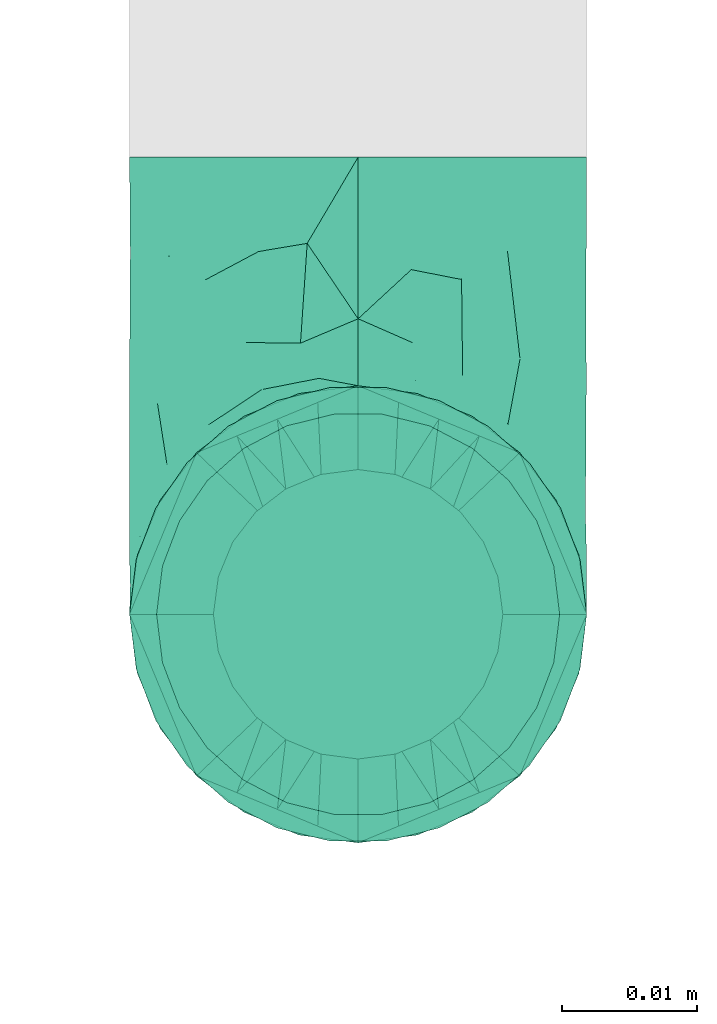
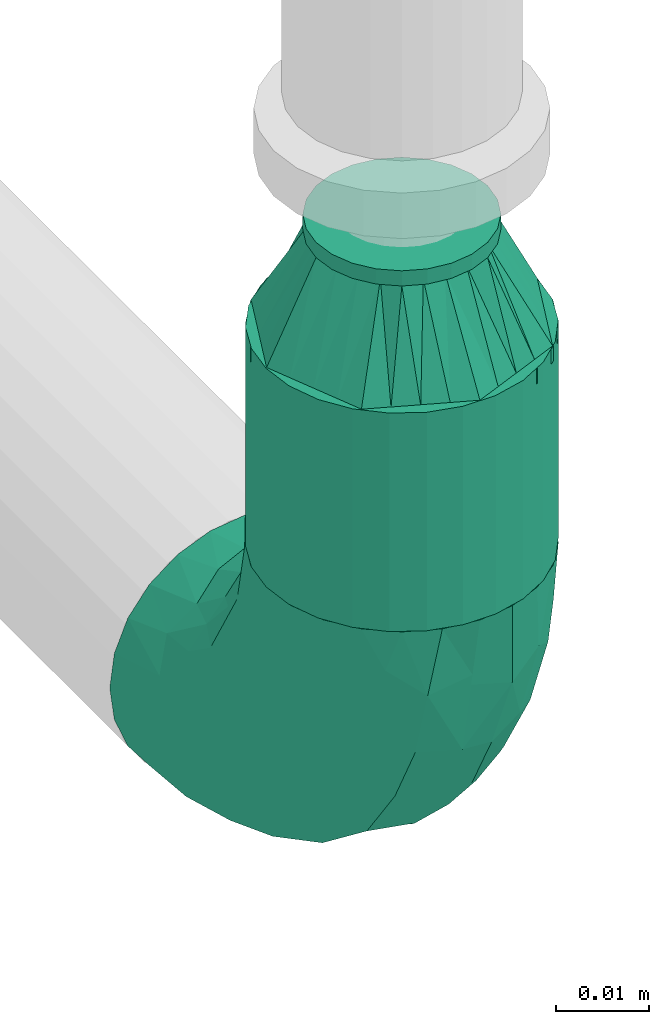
# One storey, part 10 of 31: 2 flow fittings, 1 flow segment.
"""IFC2X3 building model written with IfcOpenShell, lengths in millimetres."""

from ifc_helpers import new_model, entity, si_unit, converted_unit, derived_unit, direction, frame, origin_with_axes, origin_2d_with_axis, place, context, subcontext, project, spatial, hollow_circle, extrude, open_shell, surface_model, source, transform, mapped, type_object, element, save


model = new_model("IFC2X3")

# Units and contexts
model_context = context("Model", 3, precision=0.01, world=frame((0.0, 4.29681676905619e-09, 0.0)), true_north=direction((4.01073788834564e-13, 1.0)))
plan_context = context("Plan", 3, precision=0.01, world=frame((0.0, 4.29681676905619e-09, 0.0)), true_north=direction((4.01073788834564e-13, 1.0)))
body_context = subcontext(model_context, "Body", "Model", "MODEL_VIEW")
ifc_project = project(units=[converted_unit("PLANEANGLEUNIT", "DEGREE", entity("IfcPositiveLengthMeasure", 0.0174532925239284), si_unit("PLANEANGLEUNIT", "RADIAN"), dimensions=[0, 0, 0, 0, 0, 0, 0]), si_unit("AREAUNIT", "SQUARE_METRE"), si_unit("LENGTHUNIT", "METRE", prefix="MILLI"), si_unit("MASSUNIT", "GRAM", prefix="KILO"), si_unit("POWERUNIT", "WATT"), si_unit("PRESSUREUNIT", "PASCAL", prefix="KILO"), si_unit("FORCEUNIT", "NEWTON", prefix="KILO"), si_unit("ELECTRICVOLTAGEUNIT", "VOLT"), si_unit("ELECTRICCURRENTUNIT", "AMPERE"), si_unit("THERMODYNAMICTEMPERATUREUNIT", "DEGREE_CELSIUS"), si_unit("TIMEUNIT", "SECOND"), si_unit("VOLUMEUNIT", "CUBIC_METRE"), derived_unit("LINEARVELOCITYUNIT", [(si_unit("LENGTHUNIT", "METRE"), 1), (si_unit("TIMEUNIT", "SECOND"), -1)]), derived_unit("VOLUMETRICFLOWRATEUNIT", [(si_unit("VOLUMEUNIT", "CUBIC_METRE"), 1), (si_unit("TIMEUNIT", "SECOND"), -1)]), derived_unit("THERMALTRANSMITTANCEUNIT", [(si_unit("POWERUNIT", "WATT"), 1), (si_unit("THERMODYNAMICTEMPERATUREUNIT", "KELVIN"), -1), (si_unit("AREAUNIT", "SQUARE_METRE"), -1)]), derived_unit("SOUNDPRESSUREUNIT", [(si_unit("PRESSUREUNIT", "PASCAL"), 1)])], contexts=[model_context, plan_context])

# Site, building, storey
site_placement = place(None, frame((0.0, -4.29681676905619e-09, 0.0), z_axis=(0.0, 0.0, 1.0), x_axis=(1.0, 0.0, 0.0)))
site = spatial("IfcSite", under=ifc_project, at=site_placement, CompositionType="ELEMENT")
building_placement = place(site_placement, frame((0.0, 4.29681676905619e-09, 0.0), z_axis=(0.0, 0.0, 1.0), x_axis=(1.0, 0.0, 0.0)))
building = spatial("IfcBuilding", under=site, at=building_placement, Name="mc-building", CompositionType="ELEMENT")
storey_placement = place(building_placement, frame((0.0, 0.0, 200300.0), z_axis=(0.0, 0.0, 1.0), x_axis=(1.0, 0.0, 0.0)))
storey = spatial("IfcBuildingStorey", under=building, at=storey_placement, Name="Nivå C", CompositionType="ELEMENT", Elevation=200300.0)

# Flow fittings
pipe_fitting_type_1 = type_object("IfcPipeFittingType", Name="magi_pipe_fe_reducer_centric_short_NOR", PredefinedType="TRANSITION")
shared_shape_1 = source(origin_with_axes(), body_context, "Body", "SurfaceModel", [
    surface_model("IfcShellBasedSurfaceModel", [(14.4, 5.35, -9.26647), (14.4, 0.0, -10.7), (14.4, 2.76936, -10.33541), (14.4, 10.33541, -2.76936), (14.4, 7.56604, -7.56604), (14.4, -10.33541, -2.76936), (14.4, 9.26647, -5.35), (14.4, 0.0, 10.7), (14.4, -5.35, -9.26647), (14.4, -2.76936, -10.33541), (14.4, -7.56604, -7.56604), (14.4, -9.26647, -5.35), (14.4, 10.7, 0.0), (14.4, 10.33541, 2.76936), (14.4, 9.26647, 5.35), (14.4, 7.56604, 7.56604), (14.4, 2.76936, 10.33541), (14.4, 5.35, 9.26647), (14.4, -10.33541, 2.76936), (14.4, -7.56604, 7.56604), (14.4, -9.26647, 5.35), (14.4, -10.7, 0.0), (14.4, -2.76936, 10.33541), (14.4, -5.35, 9.26647), (12.4, 2.76936, 10.33541), (12.4, -10.33541, -2.76936), (12.4, 0.0, 10.7), (12.4, 5.35, 9.26647), (12.4, 7.56604, 7.56604), (12.4, 9.26647, 5.35), (12.4, 10.33541, 2.76936), (12.4, -10.33541, 2.76936), (12.4, -2.76936, 10.33541), (12.4, -7.56604, 7.56604), (12.4, -5.35, 9.26647), (12.4, -9.26647, 5.35), (12.4, -10.7, 0.0), (12.4, 10.33541, -2.76936), (12.4, 5.35, -9.26647), (12.4, 9.26647, -5.35), (12.4, 7.56604, -7.56604), (12.4, 2.76936, -10.33541), (12.4, -9.26647, -5.35), (12.4, -5.35, -9.26647), (12.4, -7.56604, -7.56604), (12.4, 0.0, -10.7), (12.4, -2.76936, -10.33541), (12.4, 10.7, 0.0), (-2.0, 11.9501, 11.9501), (-2.0, 0.0, 16.9), (-2.0, 4.37404, 16.32415), (-2.0, 8.45, 14.63583), (-2.0, 14.63583, 8.45), (-2.0, 16.32415, 4.37404), (-2.0, -16.32415, 4.37404), (-2.0, -8.45, 14.63583), (-2.0, -14.63583, 8.45), (-2.0, -11.9501, 11.9501), (-2.0, -4.37404, 16.32415), (-2.0, -16.32415, -4.37404), (-2.0, -16.9, 0.0), (-2.0, -8.45, -14.63583), (-2.0, 16.32415, -4.37404), (-2.0, 11.9501, -11.9501), (-2.0, 14.63583, -8.45), (-2.0, 8.45, -14.63583), (-2.0, 4.37404, -16.32415), (-2.0, 0.0, -16.9), (-2.0, -11.9501, -11.9501), (-2.0, -14.63583, -8.45), (-2.0, -4.37404, -16.32415), (-2.0, 16.9, 0.0), (0.0, 4.37404, -16.32415), (0.0, 8.45, -14.63583), (0.0, 11.9501, -11.9501), (0.0, 0.0, -16.9), (0.0, 16.32415, -4.37404), (0.0, 16.32415, 4.37404), (0.0, 14.63583, -8.45), (0.0, -8.45, -14.63583), (0.0, -4.37404, -16.32415), (0.0, -11.9501, -11.9501), (0.0, -16.32415, -4.37404), (0.0, -14.63583, -8.45), (0.0, -16.32415, 4.37404), (0.0, 16.9, 0.0), (0.0, 14.63583, 8.45), (0.0, 11.9501, 11.9501), (0.0, 4.37404, 16.32415), (0.0, 8.45, 14.63583), (0.0, 0.0, 16.9), (0.0, -14.63583, 8.45), (0.0, -16.9, 0.0), (0.0, -8.45, 14.63583), (0.0, -11.9501, 11.9501), (0.0, -4.37404, 16.32415), (12.4, 9.3625, -2.31662), (0.0, 14.42505, -5.97505), (0.0, 15.66253, -2.98753), (12.4, -6.6875, -6.94985), (0.0, -13.18758, -8.96258), (0.0, 2.98753, -15.66253), (12.4, 0.0, -9.26647), (12.4, 6.6875, -6.94985), (0.0, 8.96258, -13.18758), (12.4, -9.3625, -2.31662), (0.0, -15.66253, -2.98753), (0.0, -14.42505, -5.97505), (0.0, 5.97505, -14.42505), (0.0, -2.98753, -15.66253), (0.0, -8.96258, -13.18758), (0.0, 13.18758, -8.96258), (12.4, 8.025, -4.63324), (12.4, -2.675, -9.26647), (12.4, 2.675, -9.26647), (0.0, -5.97505, -14.42505), (12.4, -8.025, -4.63324), (12.4, -9.3625, 2.31662), (0.0, -14.42505, 5.97505), (0.0, -15.66253, 2.98753), (12.4, 6.6875, 6.94985), (0.0, 13.18758, 8.96258), (0.0, -2.98753, 15.66253), (12.4, 0.0, 9.26647), (12.4, -6.6875, 6.94985), (0.0, -8.96258, 13.18758), (12.4, 9.3625, 2.31662), (0.0, 15.66253, 2.98753), (0.0, 14.42505, 5.97505), (0.0, -5.97505, 14.42505), (0.0, 2.98753, 15.66253), (0.0, 8.96258, 13.18758), (0.0, -13.18758, 8.96258), (12.4, -8.025, 4.63324), (12.4, 2.675, 9.26647), (12.4, -2.675, 9.26647), (0.0, 5.97505, 14.42505), (12.4, 8.025, 4.63324)], [open_shell([[[0, 1, 2]], [[3, 0, 4]], [[5, 0, 3]], [[3, 4, 6]], [[7, 5, 3]], [[1, 8, 9]], [[1, 0, 8]], [[10, 5, 11]], [[5, 10, 8]], [[0, 5, 8]], [[3, 12, 13]], [[13, 14, 15]], [[13, 15, 16]], [[7, 3, 16]], [[16, 15, 17]], [[7, 18, 5]], [[18, 19, 20]], [[21, 5, 18]], [[19, 22, 23]], [[22, 19, 18]], [[7, 22, 18]], [[13, 16, 3]], [[24, 25, 26]], [[27, 25, 24]], [[28, 29, 30]], [[28, 25, 27]], [[31, 26, 25]], [[32, 33, 34]], [[33, 32, 31]], [[33, 31, 35]], [[32, 26, 31]], [[31, 25, 36]], [[30, 37, 28]], [[25, 28, 37]], [[38, 37, 39]], [[37, 38, 25]], [[38, 39, 40]], [[41, 25, 38]], [[42, 43, 44]], [[43, 42, 25]], [[43, 45, 46]], [[43, 25, 41]], [[41, 45, 43]], [[37, 30, 47]], [[25, 5, 36]], [[42, 11, 25]], [[8, 44, 43]], [[42, 44, 10]], [[9, 43, 46]], [[25, 11, 5]], [[5, 21, 36]], [[9, 8, 43]], [[10, 44, 8]], [[10, 11, 42]], [[1, 9, 46]], [[46, 45, 1]], [[41, 2, 45]], [[38, 0, 41]], [[6, 40, 39]], [[38, 40, 4]], [[3, 39, 37]], [[38, 4, 0]], [[0, 2, 41]], [[12, 3, 37]], [[6, 39, 3]], [[6, 4, 40]], [[47, 12, 37]], [[45, 2, 1]], [[30, 13, 47]], [[29, 14, 30]], [[17, 28, 27]], [[29, 28, 15]], [[16, 27, 24]], [[30, 14, 13]], [[13, 12, 47]], [[16, 17, 27]], [[15, 28, 17]], [[15, 14, 29]], [[7, 16, 24]], [[24, 26, 7]], [[32, 22, 26]], [[34, 23, 32]], [[20, 33, 35]], [[34, 33, 19]], [[18, 35, 31]], [[34, 19, 23]], [[23, 22, 32]], [[21, 18, 31]], [[20, 35, 18]], [[20, 19, 33]], [[36, 21, 31]], [[26, 22, 7]], [[48, 49, 50]], [[48, 50, 51]], [[48, 52, 53]], [[48, 53, 49]], [[49, 53, 54]], [[55, 56, 57]], [[55, 58, 49]], [[56, 55, 49]], [[49, 54, 56]], [[54, 59, 60]], [[54, 53, 61]], [[53, 62, 63]], [[63, 62, 64]], [[63, 65, 66]], [[61, 53, 63]], [[67, 63, 66]], [[59, 68, 69]], [[68, 59, 61]], [[61, 67, 70]], [[59, 54, 61]], [[63, 67, 61]], [[53, 71, 62]], [[72, 73, 74]], [[75, 72, 74]], [[74, 76, 77]], [[76, 74, 78]], [[74, 77, 79]], [[75, 79, 80]], [[75, 74, 79]], [[81, 82, 83]], [[82, 81, 79]], [[79, 84, 82]], [[77, 76, 85]], [[77, 86, 87]], [[77, 87, 88]], [[88, 84, 79]], [[88, 87, 89]], [[84, 88, 90]], [[90, 91, 84]], [[92, 82, 84]], [[91, 93, 94]], [[91, 90, 93]], [[93, 90, 95]], [[79, 77, 88]], [[59, 82, 60]], [[69, 83, 59]], [[79, 68, 61]], [[69, 68, 81]], [[80, 61, 70]], [[59, 83, 82]], [[82, 92, 60]], [[80, 79, 61]], [[81, 68, 79]], [[81, 83, 69]], [[75, 80, 70]], [[70, 67, 75]], [[66, 72, 67]], [[65, 73, 66]], [[78, 63, 64]], [[65, 63, 74]], [[76, 64, 62]], [[65, 74, 73]], [[73, 72, 66]], [[85, 76, 62]], [[78, 64, 76]], [[78, 74, 63]], [[71, 85, 62]], [[67, 72, 75]], [[53, 77, 71]], [[52, 86, 53]], [[89, 48, 51]], [[52, 48, 87]], [[88, 51, 50]], [[53, 86, 77]], [[77, 85, 71]], [[88, 89, 51]], [[87, 48, 89]], [[87, 86, 52]], [[90, 88, 50]], [[50, 49, 90]], [[58, 95, 49]], [[55, 93, 58]], [[91, 57, 56]], [[55, 57, 94]], [[84, 56, 54]], [[55, 94, 93]], [[93, 95, 58]], [[92, 84, 54]], [[91, 56, 84]], [[91, 94, 57]], [[60, 92, 54]], [[49, 95, 90]], [[27, 34, 47]], [[47, 34, 43]], [[43, 38, 47]], [[43, 34, 36]], [[90, 87, 94]], [[92, 94, 87]], [[87, 74, 92]], [[75, 92, 74]], [[81, 92, 75]], [[74, 87, 85]], [[96, 97, 98]], [[81, 99, 100]], [[101, 102, 75]], [[98, 85, 47]], [[74, 103, 104]], [[104, 103, 38]], [[105, 106, 107]], [[38, 108, 104]], [[102, 109, 75]], [[110, 99, 81]], [[47, 96, 98]], [[103, 111, 112]], [[109, 102, 113]], [[36, 92, 106]], [[102, 101, 114]], [[110, 115, 43]], [[96, 112, 97]], [[107, 116, 105]], [[36, 106, 105]], [[113, 115, 109]], [[43, 115, 113]], [[116, 107, 100]], [[108, 38, 114]], [[111, 103, 74]], [[111, 97, 112]], [[99, 110, 43]], [[116, 100, 99]], [[101, 108, 114]], [[117, 118, 119]], [[87, 120, 121]], [[122, 123, 90]], [[119, 92, 36]], [[94, 124, 125]], [[125, 124, 34]], [[126, 127, 128]], [[34, 129, 125]], [[123, 130, 90]], [[131, 120, 87]], [[36, 117, 119]], [[124, 132, 133]], [[130, 123, 134]], [[47, 85, 127]], [[123, 122, 135]], [[131, 136, 27]], [[117, 133, 118]], [[128, 137, 126]], [[47, 127, 126]], [[134, 136, 130]], [[27, 136, 134]], [[137, 128, 121]], [[129, 34, 135]], [[132, 124, 94]], [[132, 118, 133]], [[120, 131, 27]], [[137, 121, 120]], [[122, 129, 135]]])]),
])
flow_fitting_1_placement = place(storey_placement, frame((608500.0, 397923.19532, 2962.64799999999), z_axis=(0.0, 1.0, 0.0), x_axis=(0.0, 0.0, 1.0)))
element("IfcFlowFitting", 1, at=flow_fitting_1_placement, inside=storey, type_object=pipe_fitting_type_1, Name="magi_pipe_fe_reducer_centric_short_NOR", context=body_context, shape_type="MappedRepresentation", body=[
    mapped(shared_shape_1, transform((0.0, 0.0, 0.0), scale=1.0)),
])
pipe_fitting_type_2 = type_object("IfcPipeFittingType", Name="magi_pipe_fe_elbow_short_001", PredefinedType="BEND")
shared_shape_2 = source(origin_with_axes(), body_context, "Body", "SurfaceModel", [
    surface_model("IfcShellBasedSurfaceModel", [(-33.8, 8.45, -14.63583), (-33.8, 4.37404, -16.32415), (-33.8, 11.9501, -11.9501), (-33.8, -11.9501, -11.9501), (-33.8, -14.63583, -8.45), (-33.8, -8.45, -14.63583), (-33.8, 0.0, -16.9), (-33.8, -4.37404, -16.32415), (-33.8, -4.37404, 16.32415), (-33.8, 0.0, 16.9), (-33.8, -8.45, 14.63583), (-33.8, 16.32415, -4.37404), (-33.8, 14.63583, -8.45), (-33.8, -16.32415, -4.37404), (-33.8, -16.9, 0.0), (-33.8, -16.32415, 4.37404), (-33.8, 11.9501, 11.9501), (-33.8, 14.63583, 8.45), (-33.8, 16.32415, 4.37404), (-33.8, 4.37404, 16.32415), (-33.8, 8.45, 14.63583), (-33.8, -14.63583, 8.45), (-33.8, -11.9501, 11.9501), (-33.8, 16.9, 0.0), (-11.9501, 33.8, -11.9501), (0.0, 33.8, -16.9), (-4.37404, 33.8, -16.32415), (-8.45, 33.8, -14.63583), (-14.63583, 33.8, -8.45), (-16.32415, 33.8, -4.37404), (14.63583, 33.8, -8.45), (8.45, 33.8, 14.63583), (16.32415, 33.8, -4.37404), (8.45, 33.8, -14.63583), (11.9501, 33.8, -11.9501), (4.37404, 33.8, -16.32415), (16.32415, 33.8, 4.37404), (16.9, 33.8, 0.0), (-11.9501, 33.8, 11.9501), (-16.32415, 33.8, 4.37404), (-14.63583, 33.8, 8.45), (-8.45, 33.8, 14.63583), (-4.37404, 33.8, 16.32415), (11.9501, 33.8, 11.9501), (14.63583, 33.8, 8.45), (0.0, 33.8, 16.9), (4.37404, 33.8, 16.32415), (-16.9, 33.8, 0.0), (-24.79389, -13.12945, 9.48721), (-22.19287, -9.75018, 12.59315), (-24.09897, -14.97035, 0.0), (-14.93934, -10.76256, 8.5297), (-22.46095, -14.75051, 5.27077), (14.75051, 22.46094, 5.27077), (11.9251, 13.23888, 4.33236), (13.04069, 14.39795, 0.0), (7.71387, 13.68847, 11.55891), (9.75018, 22.19287, 12.59315), (4.10169, 13.0571, 14.04018), (-24.84007, -6.39063, 15.2048), (-25.81779, -2.23879, 16.61097), (-23.66549, 2.59054, 16.87119), (-26.50418, 14.06512, 11.08152), (-24.21253, 17.66365, 7.72657), (-29.58514, 15.86957, 7.00283), (-6.17382, -7.5455, 0.0), (-13.23888, -11.9251, 4.33236), (-14.39795, -13.04069, 0.0), (-17.81434, 18.87373, 11.97104), (-6.30846, 29.15138, 15.82987), (-2.31622, 25.28002, 16.85849), (-29.23923, 10.23435, 13.77053), (-1.45439, -2.85688, 7.61475), (-0.28326, 0.34872, 10.09509), (-5.74484, -4.04709, 10.4122), (-4.41137, 11.31918, 16.59407), (-8.39727, 3.10034, 15.7812), (-1.72649, 9.1306, 15.53089), (-17.39909, 24.75344, 7.64977), (-26.19233, 20.0512, 0.0), (-28.14518, 17.29657, 4.25857), (-26.05147, 6.6281, 15.96447), (-5.87354, 16.61944, 16.86968), (-12.51807, 12.51807, 16.48937), (-10.06312, 7.38516, 16.81295), (-3.01882, 3.01882, 13.81718), (-13.0571, -4.10169, 14.04018), (-16.82553, -0.15166, 16.38038), (10.76256, 14.93934, 8.5297), (13.12945, 24.79389, 9.48721), (6.39063, 24.84007, 15.2048), (2.23879, 25.81779, 16.61097), (-13.68847, -7.71387, 11.55891), (14.97035, 24.09897, 0.0), (-7.30894, 22.89991, 16.09489), (-10.67958, 26.17414, 14.008), (-12.78295, 18.26924, 15.06066), (-13.88562, 22.45231, 12.93244), (-18.04944, 15.16501, 14.04434), (-23.11658, 20.08178, 4.02986), (-21.84989, 21.84989, 0.0), (-18.55817, 25.48277, 3.93065), (-13.95142, 26.94732, 11.03289), (-18.57098, 7.23906, 16.59756), (-16.58335, 4.14122, 16.89279), (-17.96666, 11.46709, 15.63151), (-9.84453, 17.54304, 16.18938), (0.15166, 16.82553, 16.38038), (-23.27207, 11.47201, 14.23154), (3.84842, 5.86994, 10.70473), (-8.0212, -7.54413, 7.93275), (1.00345, -2.19508, 4.57414), (5.13203, 3.01004, 5.90201), (5.24161, 1.7543, 2.53265), (8.70457, 7.04947, 3.99182), (-20.0512, 26.19233, 0.0), (8.4852, 8.76699, 7.09296), (-4.55488, -6.72064, 4.90681), (2.05031, -2.05031, 0.0), (7.5455, 6.17382, 0.0), (-26.75399, 2.1369, -16.845), (-14.61995, 24.73803, -11.27736), (-28.45274, -13.45335, -9.81895), (-26.00469, 6.63555, -15.96645), (-23.06726, 20.04573, -4.26202), (-13.80647, -4.26506, -14.17873), (-14.67501, -0.21081, -16.07388), (-6.7902, -0.2828, -13.8478), (-24.53586, 11.08096, -14.13417), (-26.72048, 14.00837, -11.05776), (10.0967, 24.44989, -12.75976), (5.83237, 21.40218, -15.03047), (6.66249, 28.54238, -15.38093), (-20.38182, 15.48705, -12.74596), (12.53268, 21.23441, -9.15363), (12.54494, 15.67504, -5.54878), (9.7522, 12.89279, -8.66343), (-15.65186, 19.64213, -13.01327), (-12.03528, 20.66498, -14.67665), (-15.61907, 15.61906, -14.83879), (-25.56551, -15.26206, 0.0), (-24.65452, -15.12934, -5.50955), (13.45335, 28.45274, -9.81895), (15.12934, 24.65452, -5.50955), (-7.35442, -8.31014, -5.65563), (-15.67504, -12.54494, -5.54878), (-24.44989, -10.0967, -12.75976), (0.16522, 0.41303, -9.71728), (-5.70658, -5.33066, -8.89288), (-5.13869, -2.37198, -11.53565), (-21.23441, -12.53268, -9.15363), (0.71146, 7.93863, -14.09382), (0.21081, 14.67501, -16.07388), (3.49291, 14.42772, -14.76381), (-24.89911, -2.13088, -16.591), (-28.54238, -6.66249, -15.38093), (-18.44386, -7.71663, -13.26957), (2.13088, 24.89911, -16.591), (-28.64342, 17.44413, -2.89318), (1.70017, -1.28722, -5.09504), (-16.57067, 26.81947, -7.36596), (-17.69055, 27.4263, -3.76405), (-12.89279, -9.7522, -8.66343), (-5.96611, 5.96611, -15.95814), (-20.53709, 20.09345, -8.28985), (-2.1369, 26.75399, -16.845), (-6.89872, 24.58781, -16.02578), (-10.60739, 26.53157, -13.98044), (-21.40218, -5.83237, -15.03047), (2.93192, 5.89627, -11.55917), (6.89393, 12.61842, -11.82233), (5.58056, 5.95325, -8.79455), (-3.99512, 18.61798, -16.89635), (8.31014, 7.35442, -5.65563), (-9.1383, 9.86148, -16.89041), (-9.99983, 16.02119, -16.39699), (-16.68576, 9.78031, -16.34199), (-27.01915, 16.61158, -7.12979), (15.26206, 25.56551, 0.0), (-18.61798, 3.99512, -16.89635), (-19.37495, 27.82495, 0.0), (-12.61842, -6.89393, -11.82233), (-18.84705, 19.14018, -10.96545)], [open_shell([[[0, 1, 2]], [[3, 4, 5]], [[6, 7, 5]], [[8, 9, 10]], [[1, 6, 2]], [[11, 12, 2]], [[4, 2, 6]], [[2, 13, 10]], [[5, 4, 6]], [[2, 4, 13]], [[14, 15, 13]], [[11, 2, 16]], [[11, 17, 18]], [[11, 16, 17]], [[19, 20, 16]], [[16, 2, 10]], [[19, 16, 10]], [[21, 22, 15]], [[22, 13, 15]], [[22, 10, 13]], [[10, 9, 19]], [[11, 18, 23]], [[24, 25, 26]], [[24, 26, 27]], [[24, 28, 29]], [[25, 24, 30]], [[31, 32, 24]], [[33, 30, 34]], [[33, 35, 25]], [[25, 30, 33]], [[32, 30, 24]], [[32, 36, 37]], [[38, 24, 29]], [[39, 40, 29]], [[40, 38, 29]], [[38, 41, 42]], [[38, 31, 24]], [[31, 38, 42]], [[36, 43, 44]], [[36, 32, 43]], [[31, 45, 46]], [[32, 31, 43]], [[42, 45, 31]], [[39, 29, 47]], [[22, 48, 49]], [[15, 14, 50]], [[51, 48, 52]], [[53, 54, 55]], [[48, 22, 21]], [[15, 52, 21]], [[56, 57, 58]], [[49, 10, 22]], [[49, 59, 10]], [[9, 60, 61]], [[62, 63, 64]], [[65, 66, 67]], [[57, 43, 31]], [[62, 68, 63]], [[42, 69, 70]], [[20, 71, 16]], [[8, 60, 9]], [[72, 73, 74]], [[75, 76, 77]], [[16, 62, 17]], [[40, 39, 78]], [[79, 23, 80]], [[64, 18, 17]], [[9, 61, 19]], [[19, 81, 20]], [[82, 83, 84]], [[74, 85, 86]], [[59, 86, 87]], [[88, 89, 57]], [[90, 31, 46]], [[44, 53, 36]], [[46, 45, 91]], [[54, 53, 88]], [[44, 89, 53]], [[92, 86, 49]], [[89, 44, 43]], [[10, 59, 8]], [[53, 55, 93]], [[93, 36, 53]], [[66, 52, 67]], [[94, 82, 70]], [[95, 96, 94]], [[97, 98, 96]], [[79, 99, 100]], [[41, 38, 95]], [[101, 100, 99]], [[68, 78, 63]], [[42, 41, 69]], [[23, 18, 80]], [[95, 94, 69]], [[78, 101, 99]], [[38, 102, 95]], [[70, 45, 42]], [[97, 95, 102]], [[15, 50, 52]], [[90, 57, 31]], [[57, 90, 58]], [[81, 19, 61]], [[103, 104, 84]], [[105, 81, 103]], [[38, 40, 102]], [[106, 96, 83]], [[94, 106, 82]], [[91, 70, 107]], [[71, 62, 16]], [[62, 108, 98]], [[86, 59, 49]], [[67, 52, 50]], [[60, 59, 87]], [[92, 49, 51]], [[86, 85, 76]], [[91, 90, 46]], [[37, 36, 93]], [[107, 77, 58]], [[107, 58, 90]], [[58, 85, 109]], [[110, 74, 92]], [[72, 74, 110]], [[66, 51, 52]], [[72, 111, 112]], [[113, 114, 112]], [[56, 88, 57]], [[52, 48, 21]], [[49, 48, 51]], [[57, 89, 43]], [[53, 89, 88]], [[103, 81, 61]], [[71, 81, 108]], [[18, 64, 80]], [[63, 78, 99]], [[47, 115, 101]], [[101, 115, 100]], [[40, 78, 102]], [[68, 102, 78]], [[97, 96, 95]], [[105, 98, 108]], [[103, 84, 83]], [[107, 70, 82]], [[76, 84, 87]], [[82, 84, 75]], [[70, 91, 45]], [[90, 91, 107]], [[59, 60, 8]], [[61, 60, 87]], [[73, 85, 74]], [[109, 112, 116]], [[103, 61, 104]], [[105, 103, 83]], [[96, 105, 83]], [[81, 105, 108]], [[96, 98, 105]], [[62, 98, 68]], [[61, 87, 104]], [[87, 84, 104]], [[86, 76, 87]], [[77, 76, 85]], [[58, 77, 85]], [[75, 77, 107]], [[82, 75, 107]], [[76, 75, 84]], [[81, 71, 20]], [[62, 71, 108]], [[95, 69, 41]], [[70, 69, 94]], [[62, 64, 17]], [[80, 63, 99]], [[63, 80, 64]], [[80, 99, 79]], [[66, 65, 117]], [[110, 66, 117]], [[112, 114, 116]], [[118, 117, 65]], [[110, 92, 51]], [[112, 111, 113]], [[119, 55, 54]], [[74, 86, 92]], [[58, 109, 56]], [[116, 56, 109]], [[66, 110, 51]], [[72, 110, 117]], [[111, 72, 117]], [[73, 112, 109]], [[117, 118, 111]], [[113, 111, 118]], [[118, 119, 113]], [[114, 119, 54]], [[119, 114, 113]], [[116, 54, 88]], [[54, 116, 114]], [[116, 88, 56]], [[112, 73, 72]], [[85, 73, 109]], [[78, 39, 101]], [[47, 101, 39]], [[102, 68, 97]], [[97, 68, 98]], [[82, 106, 83]], [[94, 96, 106]], [[1, 120, 6]], [[28, 24, 121]], [[3, 122, 4]], [[0, 123, 1]], [[100, 124, 79]], [[125, 126, 127]], [[128, 2, 129]], [[130, 131, 132]], [[128, 129, 133]], [[134, 135, 136]], [[137, 138, 139]], [[128, 0, 2]], [[67, 140, 141]], [[134, 142, 143]], [[141, 13, 4]], [[144, 65, 145]], [[146, 3, 5]], [[147, 148, 149]], [[145, 141, 150]], [[151, 152, 153]], [[154, 7, 6]], [[5, 155, 146]], [[150, 146, 156]], [[155, 5, 7]], [[143, 135, 134]], [[35, 157, 25]], [[23, 79, 158]], [[148, 159, 144]], [[160, 161, 29]], [[145, 162, 144]], [[163, 152, 151]], [[29, 28, 160]], [[121, 164, 160]], [[33, 34, 130]], [[25, 165, 26]], [[26, 165, 166]], [[142, 34, 30]], [[24, 27, 167]], [[124, 161, 164]], [[157, 35, 132]], [[155, 154, 168]], [[123, 0, 128]], [[169, 170, 171]], [[172, 157, 152]], [[26, 166, 27]], [[132, 35, 33]], [[142, 130, 34]], [[168, 154, 126]], [[136, 135, 173]], [[133, 137, 139]], [[2, 12, 129]], [[170, 131, 130]], [[30, 32, 143]], [[172, 174, 175]], [[176, 123, 128]], [[158, 177, 11]], [[135, 55, 119]], [[167, 27, 166]], [[175, 166, 172]], [[137, 167, 138]], [[122, 141, 4]], [[140, 14, 13]], [[32, 37, 178]], [[170, 130, 134]], [[152, 157, 131]], [[165, 157, 172]], [[153, 170, 151]], [[152, 163, 174]], [[168, 125, 156]], [[122, 146, 150]], [[120, 154, 6]], [[179, 174, 126]], [[179, 126, 154]], [[126, 163, 127]], [[162, 145, 150]], [[140, 13, 141]], [[32, 178, 143]], [[55, 143, 178]], [[177, 129, 12]], [[128, 133, 139]], [[176, 128, 139]], [[120, 123, 179]], [[121, 160, 28]], [[161, 100, 180]], [[166, 175, 138]], [[121, 24, 167]], [[161, 47, 29]], [[79, 124, 158]], [[124, 164, 177]], [[161, 124, 100]], [[136, 171, 170]], [[127, 163, 151]], [[147, 171, 159]], [[148, 144, 162]], [[127, 151, 169]], [[127, 181, 125]], [[129, 177, 164]], [[12, 11, 177]], [[159, 65, 144]], [[67, 141, 145]], [[143, 55, 135]], [[135, 119, 173]], [[123, 120, 1]], [[154, 120, 179]], [[157, 165, 25]], [[166, 165, 172]], [[172, 152, 174]], [[176, 139, 175]], [[126, 174, 163]], [[176, 174, 179]], [[174, 176, 175]], [[123, 176, 179]], [[150, 181, 162]], [[127, 149, 181]], [[181, 148, 162]], [[159, 148, 147]], [[171, 136, 173]], [[170, 134, 136]], [[159, 171, 173]], [[171, 147, 169]], [[169, 147, 149]], [[151, 170, 169]], [[164, 182, 129]], [[182, 121, 137]], [[181, 149, 148]], [[169, 149, 127]], [[182, 137, 133]], [[167, 137, 121]], [[166, 138, 167]], [[175, 139, 138]], [[129, 182, 133]], [[121, 182, 164]], [[161, 160, 164]], [[47, 161, 180]], [[177, 158, 124]], [[23, 158, 11]], [[130, 132, 33]], [[157, 132, 131]], [[143, 142, 30]], [[130, 142, 134]], [[154, 155, 7]], [[146, 155, 168]], [[146, 122, 3]], [[141, 122, 150]], [[152, 131, 153]], [[159, 119, 118]], [[67, 145, 65]], [[170, 153, 131]], [[119, 159, 173]], [[159, 118, 65]], [[156, 125, 181]], [[126, 125, 168]], [[150, 156, 181]], [[168, 156, 146]]])]),
])
flow_fitting_2_placement = place(storey_placement, frame((608500.0, 397923.19532, 2900.0), z_axis=(1.0, 0.0, 0.0), x_axis=(0.0, 0.0, -1.0)))
element("IfcFlowFitting", 2, at=flow_fitting_2_placement, inside=storey, type_object=pipe_fitting_type_2, Name="magi_pipe_fe_elbow_short_001", context=body_context, shape_type="MappedRepresentation", body=[
    mapped(shared_shape_2, transform((0.0, 0.0, 0.0), scale=1.0)),
])

# Flow segment
pipe_segment_type = type_object("IfcPipeSegmentType", Name="Stålrør normaltykke", PredefinedType="RIGIDSEGMENT")
shared_shape_3 = source(origin_with_axes(), body_context, "Body", "SweptSolid", [
    extrude(hollow_circle(Radius=16.9, WallThickness=2.0, at=origin_2d_with_axis()), frame((0.0, 0.0, 0.0), z_axis=(1.0, 0.0, 0.0), x_axis=(0.0, 1.0, 0.0)), (0.0, 0.0, 1.0), 28.8),
])
flow_segment_placement = place(storey_placement, frame((608500.0, 397923.19532, 2933.79999999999), z_axis=(0.0, 1.0, 0.0), x_axis=(0.0, 0.0, 1.0)))
element("IfcFlowSegment", 3, at=flow_segment_placement, inside=storey, type_object=pipe_segment_type, Name="Stålrør normaltykke", context=body_context, shape_type="MappedRepresentation", body=[
    mapped(shared_shape_3, transform((0.0, 0.0, 0.0), scale=1.0)),
])

save(model, "model.ifc")
